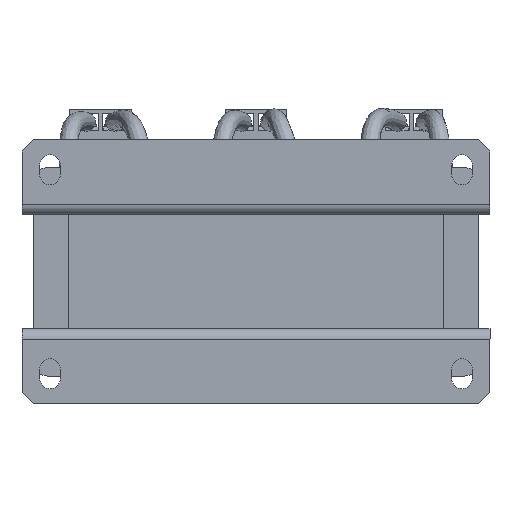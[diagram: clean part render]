
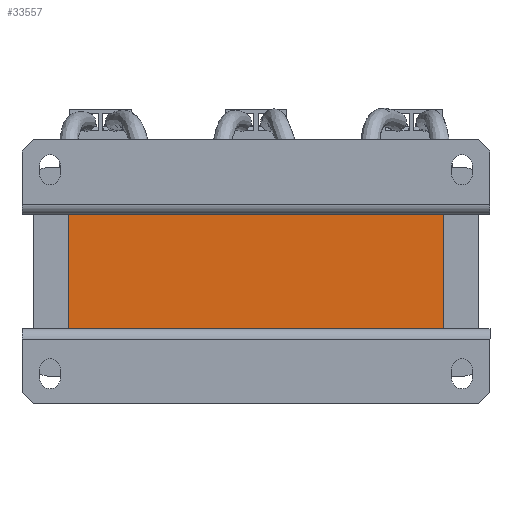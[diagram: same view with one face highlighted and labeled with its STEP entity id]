
A CAD part, front view. The second image highlights one B-rep face of the part: STEP entity #33557.
In plain terms, the highlighted planar face has unit normal (0, -1, 0).
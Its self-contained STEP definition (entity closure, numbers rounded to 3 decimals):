
#1645=LINE('',#51664,#5081);
#1704=LINE('',#51824,#5140);
#1814=LINE('',#52115,#5250);
#1819=LINE('',#52123,#5255);
#5081=VECTOR('',#40384,10.);
#5140=VECTOR('',#40541,10.);
#5250=VECTOR('',#40831,10.);
#5255=VECTOR('',#40842,10.);
#7913=PLANE('',#35773);
#9903=FACE_OUTER_BOUND('',#11773,.T.);
#11773=EDGE_LOOP('',(#25203,#25204,#25205,#25206));
#14988=VERTEX_POINT('',#51653);
#14992=VERTEX_POINT('',#51662);
#15040=VERTEX_POINT('',#51813);
#15044=VERTEX_POINT('',#51822);
#18587=EDGE_CURVE('',#14992,#14988,#1645,.T.);
#18665=EDGE_CURVE('',#15044,#15040,#1704,.T.);
#18811=EDGE_CURVE('',#15044,#14988,#1814,.T.);
#18816=EDGE_CURVE('',#14992,#15040,#1819,.T.);
#25203=ORIENTED_EDGE('',*,*,#18816,.T.);
#25204=ORIENTED_EDGE('',*,*,#18665,.F.);
#25205=ORIENTED_EDGE('',*,*,#18811,.T.);
#25206=ORIENTED_EDGE('',*,*,#18587,.F.);
#33557=ADVANCED_FACE('',(#9903),#7913,.T.);
#35773=AXIS2_PLACEMENT_3D('',#52168,#40893,#40894);
#40384=DIRECTION('',(-1.,0.,0.));
#40541=DIRECTION('',(1.,0.,0.));
#40831=DIRECTION('',(0.,0.,-1.));
#40842=DIRECTION('',(0.,0.,1.));
#40893=DIRECTION('center_axis',(0.,-1.,0.));
#40894=DIRECTION('ref_axis',(1.,0.,0.));
#51653=CARTESIAN_POINT('',(-50.,-50.7,-15.25));
#51662=CARTESIAN_POINT('',(50.,-50.7,-15.25));
#51664=CARTESIAN_POINT('',(50.,-50.7,-15.25));
#51813=CARTESIAN_POINT('',(50.,-50.7,15.25));
#51822=CARTESIAN_POINT('',(-50.,-50.7,15.25));
#51824=CARTESIAN_POINT('',(50.,-50.7,15.25));
#52115=CARTESIAN_POINT('',(-50.,-50.7,0.));
#52123=CARTESIAN_POINT('',(50.,-50.7,0.));
#52168=CARTESIAN_POINT('Origin',(-50.,-50.7,0.));
